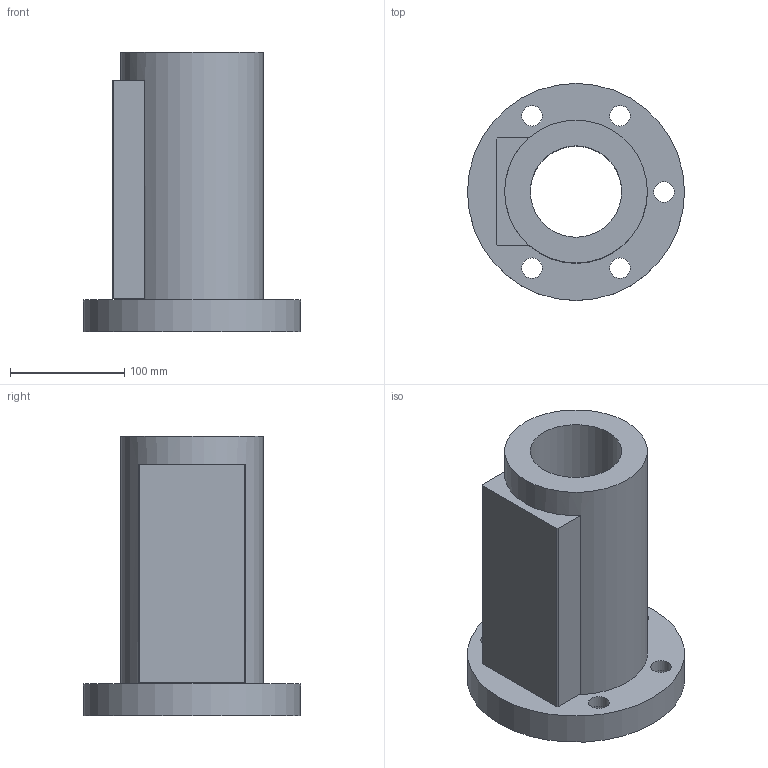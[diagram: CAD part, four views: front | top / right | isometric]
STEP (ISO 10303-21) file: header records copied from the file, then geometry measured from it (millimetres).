
FILE_DESCRIPTION(/* description */ (''),/* implementation_level */ '2;1');
FILE_NAME(/* name */ '80-20B3',/* time_stamp */ '2006-07-31T13:03:37+08:00',/* author */ (''),/* organization */ (''),/* preprocessor_version */ 'ST-DEVELOPER v9',/* originating_system */ 'UGS - NX 4.0',/* authorisation */ '');
FILE_SCHEMA (('CONFIG_CONTROL_DESIGN'));
Length unit declared in the file: millimetre
Products named in the file (1): 80-20B3
Bounding box: 190 x 190 x 245 mm (x, y, z)
Volume: 2417314.5 mm3; surface area: 228777.3 mm2
Topology: 1 solids, 1 shells, 28 faces, 61 edges, 42 vertices
Faces by surface type: plane 15, cylinder 13
Full cylindrical faces by diameter (mm): 18 x5, 26 x5, 80 x1, 125 x1, 190 x1
Entity records: 794 total; most frequent: DIRECTION 130, CARTESIAN_POINT 111, ORIENTED_EDGE 88, EDGE_LOOP 60, AXIS2_PLACEMENT_3D 57, FACE_BOUND 45, EDGE_CURVE 44, VERTEX_POINT 38
